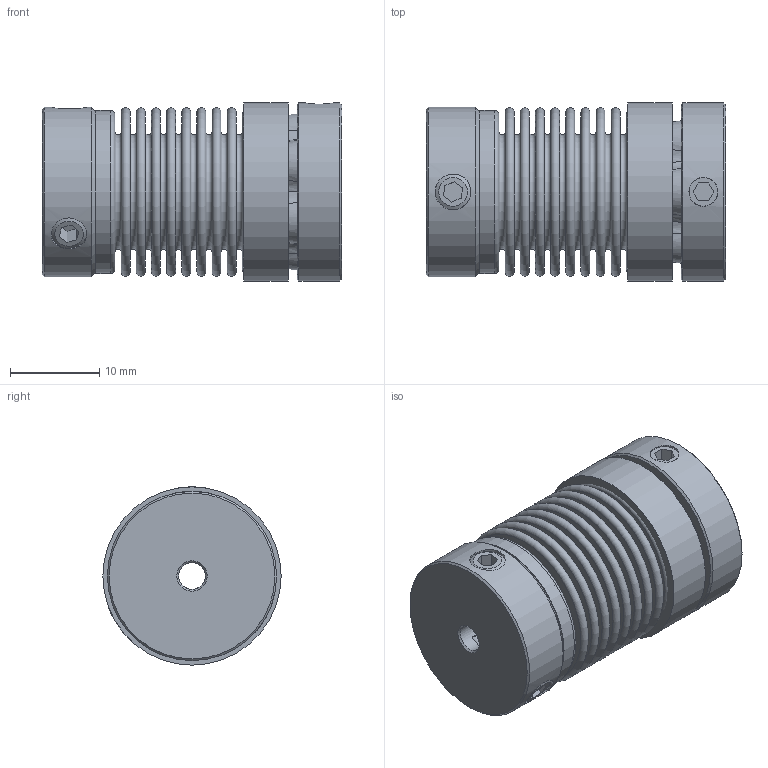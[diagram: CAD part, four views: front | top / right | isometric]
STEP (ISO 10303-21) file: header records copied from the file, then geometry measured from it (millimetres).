
FILE_DESCRIPTION( ( 'KBE1/14 - N7H8 - N14H7 - 98 Sh' ), '1' );
FILE_NAME( 'K:/Konstruktion/Fertigungszeichnungen/Metallbalgkupplung/KB1P/15/KB1P-15-32.stp', '14.12.2015', ( 'KBK-Antriebstechnik' ), ( 'KBK-Antriebstechnik' ), 'PSStep 16.0.42', 'Solid Edge St6', ' ' );
FILE_SCHEMA( ( 'AUTOMOTIVE_DESIGN { 1 0 10303 214 1 1 1 1 }' ) );
Length unit declared in the file: millimetre
Products named in the file (6): Assem1; Stecknabe KB1P-15; Balgaufnahme KB2P-15 für Step; MN15_Standard_1; BL15_Standard_0; Socket Set Screw Cup Point_DIN_DIN 916 - M4 x 6-N_4
Assembly tree (8 placements, depth 2):
  Assem1
    Stecknabe KB1P-15
    Balgaufnahme KB2P-15 für Step
    MN15_Standard_1
    BL15_Standard_0
    Socket Set Screw Cup Point_DIN_DIN 916 - M4 x 6-N_4  x4
Bounding box: 33.6 x 20 x 20 mm (x, y, z)
Volume: 5779.3 mm3; surface area: 10557.4 mm2
Topology: 8 solids, 8 shells, 193 faces, 417 edges, 272 vertices
Faces by surface type: plane 81, cone 56, torus 38, cylinder 18
Full cylindrical faces by diameter (mm): 3 x2, 3.242 x2, 4 x6, 18 x3, 18.3 x2, 19 x1, 20 x2
Entity records: 5701 total; most frequent: CARTESIAN_POINT 1082, DIRECTION 740, ORIENTED_EDGE 502, AXIS2_PLACEMENT_3D 347, EDGE_LOOP 272, EDGE_CURVE 251, VERTEX_POINT 220, FACE_OUTER_BOUND 210
